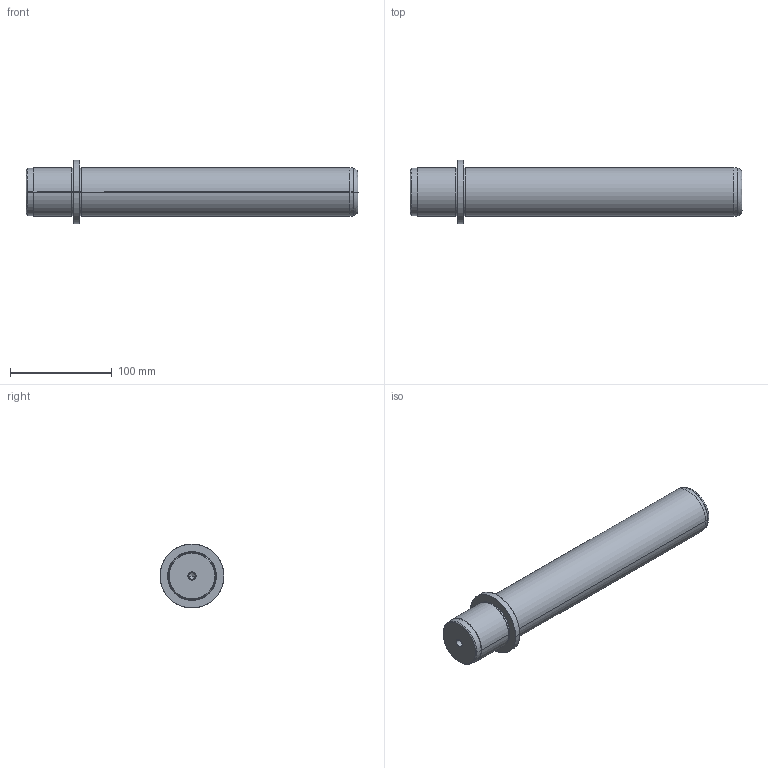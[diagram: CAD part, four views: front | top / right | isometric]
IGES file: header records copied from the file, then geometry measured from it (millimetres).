
Start section: SolidWorks IGES FILE using analytic representation for surfaces
Global section: file name: D:\zzzzz\Delta\D06\48\D06 - 48x280x47.IGS; native system: SolidWorks 2004 by SolidWorks Corporation; preprocessor: Version 5.3; author: Hkn; date: 080327.151320; units: millimetre
Bounding box: 327 x 63 x 63 mm (x, y, z)
Surface area: 56782.7 mm2 (no closed solid volume)
Topology: 0 solids, 0 shells, 39 faces, 1080 edges, 1076 vertices
Faces by surface type: revolution 28, bspline 11
